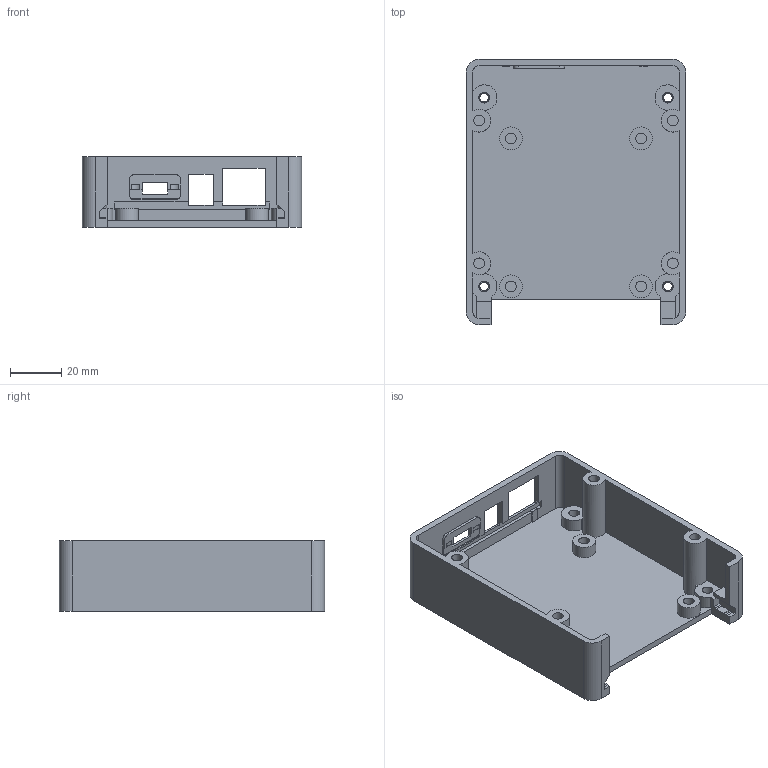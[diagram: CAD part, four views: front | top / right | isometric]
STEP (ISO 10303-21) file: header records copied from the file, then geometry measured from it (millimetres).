
FILE_DESCRIPTION(/* description */ (''),/* implementation_level */ '2;1');
FILE_NAME(/* name */ 'carrier-bottom.step',/* time_stamp */ '2026-09-15T10:15:48-07:00',/* author */ (''),/* organization */ (''),/* preprocessor_version */ 'ST-DEVELOPER v20.2',/* originating_system */ 'Autodesk Translation Framework v15.15.0.0',/* authorisation */ '');
FILE_SCHEMA (('AUTOMOTIVE_DESIGN { 1 0 10303 214 3 1 1 }'));
Length unit declared in the file: centimetre
Products named in the file (1): 01 Bottom shell - fitted guides and 4.2mm pilots
Bounding box: 86 x 104 x 27.6 mm (x, y, z)
Volume: 45593.7 mm3; surface area: 35242.2 mm2
Topology: 1 solids, 1 shells, 185 faces, 502 edges, 334 vertices
Faces by surface type: plane 123, cylinder 62
Full cylindrical faces by diameter (mm): 3.4 x4, 4.2 x12, 9 x4
Entity records: 5906 total; most frequent: CARTESIAN_POINT 1032, ORIENTED_EDGE 1004, DIRECTION 1004, EDGE_CURVE 502, LINE 368, VECTOR 368, VERTEX_POINT 334, AXIS2_PLACEMENT_3D 318
